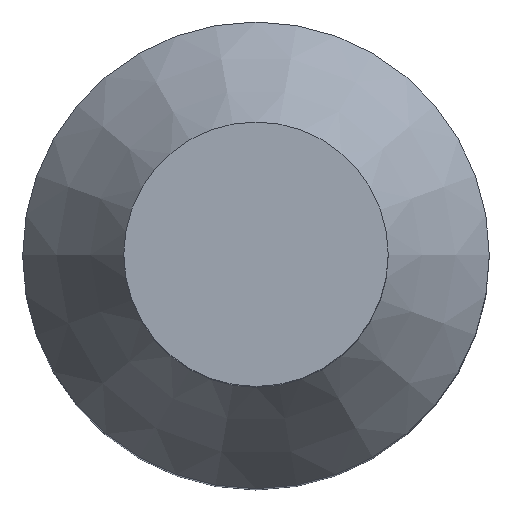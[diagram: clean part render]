
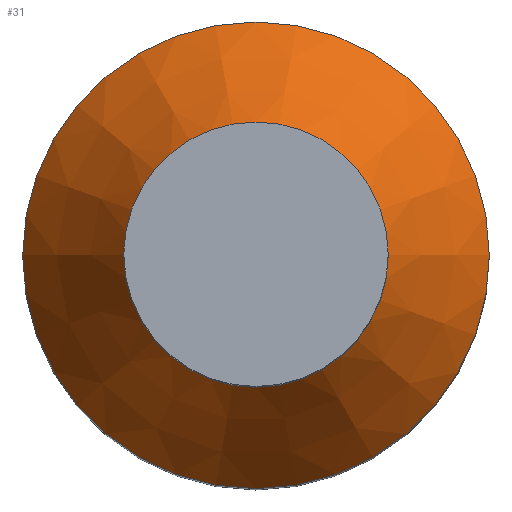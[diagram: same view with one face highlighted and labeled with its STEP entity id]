
A CAD part, top view. The second image highlights one B-rep face of the part: STEP entity #31.
In plain terms, the highlighted conical face has half-angle 33.024 degrees and reference radius 75 mm.
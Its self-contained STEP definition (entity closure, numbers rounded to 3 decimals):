
#31 = ADVANCED_FACE( '', ( #62, #63 ), #64, .T. );
#62 = FACE_BOUND( '', #95, .T. );
#63 = FACE_OUTER_BOUND( '', #96, .T. );
#64 = CONICAL_SURFACE( '', #97, 75., 0.576 );
#95 = EDGE_LOOP( '', ( #122 ) );
#96 = EDGE_LOOP( '', ( #123 ) );
#97 = AXIS2_PLACEMENT_3D( '', #124, #125, #126 );
#122 = ORIENTED_EDGE( '', *, *, #162, .F. );
#123 = ORIENTED_EDGE( '', *, *, #163, .T. );
#124 = CARTESIAN_POINT( '', ( 0., 0., 245. ) );
#125 = DIRECTION( '', ( 0., 0., -1. ) );
#126 = DIRECTION( '', ( -1., 0., 0. ) );
#162 = EDGE_CURVE( '', #175, #175, #176, .T. );
#163 = EDGE_CURVE( '', #177, #177, #178, .T. );
#175 = VERTEX_POINT( '', #194 );
#176 = CIRCLE( '', #195, 42.5 );
#177 = VERTEX_POINT( '', #196 );
#178 = CIRCLE( '', #197, 75. );
#194 = CARTESIAN_POINT( '', ( 42.5, 0., 295. ) );
#195 = AXIS2_PLACEMENT_3D( '', #212, #213, #214 );
#196 = CARTESIAN_POINT( '', ( 75., 0., 245. ) );
#197 = AXIS2_PLACEMENT_3D( '', #215, #216, #217 );
#212 = CARTESIAN_POINT( '', ( 0., 0., 295. ) );
#213 = DIRECTION( '', ( 0., 0., 1. ) );
#214 = DIRECTION( '', ( 1., 0., 0. ) );
#215 = CARTESIAN_POINT( '', ( 0., 0., 245. ) );
#216 = DIRECTION( '', ( 0., 0., 1. ) );
#217 = DIRECTION( '', ( 1., 0., 0. ) );
